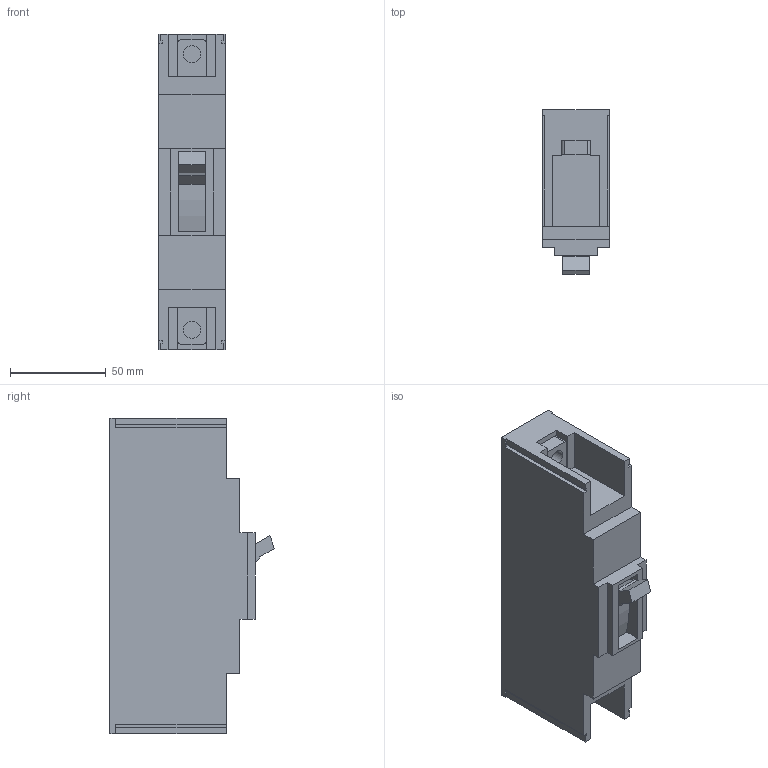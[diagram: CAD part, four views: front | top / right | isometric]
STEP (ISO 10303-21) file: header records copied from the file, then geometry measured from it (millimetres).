
FILE_DESCRIPTION((''),'2;1');
FILE_NAME('S160NF132','2012-09-20T',('cmahecha'),(''),'PRO/ENGINEER BY PARAMETRIC TECHNOLOGY CORPORATION, 2010280','PRO/ENGINEER BY PARAMETRIC TECHNOLOGY CORPORATION, 2010280','');
FILE_SCHEMA(('CONFIG_CONTROL_DESIGN'));
Length unit declared in the file: millimetre
Products named in the file (1): S160NF132
Bounding box: 35 x 86 x 165 mm (x, y, z)
Volume: 341504.8 mm3; surface area: 45151.5 mm2
Topology: 1 solids, 1 shells, 85 faces, 236 edges, 156 vertices
Faces by surface type: plane 75, cylinder 10
Entity records: 2716 total; most frequent: CARTESIAN_POINT 477, ORIENTED_EDGE 472, DIRECTION 426, EDGE_CURVE 236, VECTOR 216, LINE 216, VERTEX_POINT 156, AXIS2_PLACEMENT_3D 105
